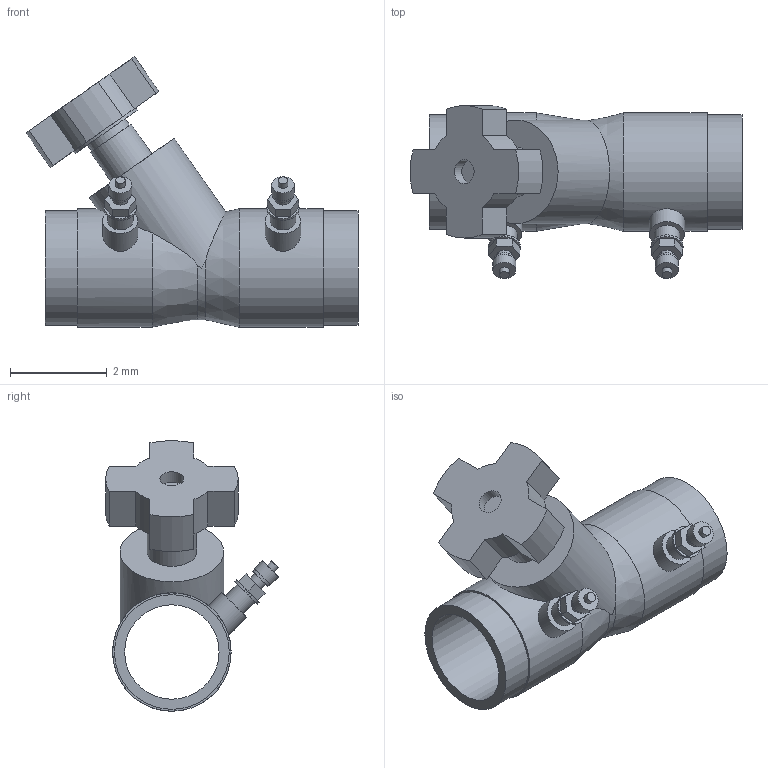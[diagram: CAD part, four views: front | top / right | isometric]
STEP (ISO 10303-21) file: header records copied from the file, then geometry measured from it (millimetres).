
FILE_DESCRIPTION(('Open CASCADE Model'),'2;1');
FILE_NAME('Open CASCADE Shape Model','2021-11-02T11:48:50',('Author'),( 'Open CASCADE'),'Open CASCADE STEP processor 7.3','Open CASCADE 7.3' ,'Unknown');
FILE_SCHEMA(('AUTOMOTIVE_DESIGN { 1 0 10303 214 1 1 1 1 }'));
Length unit declared in the file: millimetre
Products named in the file (1): Open CASCADE STEP translator 7.3 1
Bounding box: 6.86 x 3.57 x 5.59 mm (x, y, z)
Volume: 19.5 mm3; surface area: 125.4 mm2
Topology: 1 solids, 1 shells, 81 faces, 174 edges, 117 vertices
Faces by surface type: plane 46, cylinder 33, cone 2
Full cylindrical faces by diameter (mm): 0.2 x2, 0.32 x2, 0.445 x2, 0.475 x2, 0.495 x1, 0.525 x2, 0.665 x2, 0.73 x2, 0.95 x1, 1.02 x1, 1.57 x1, 1.951 x1, 2.14 x1, 2.37 x2, 2.445 x1, 2.45 x1
Entity records: 5753 total; most frequent: CARTESIAN_POINT 2177, DIRECTION 667, ORIENTED_EDGE 348, PCURVE 348, DEFINITIONAL_REPRESENTATION 348, LINE 326, VECTOR 326, EDGE_CURVE 174
